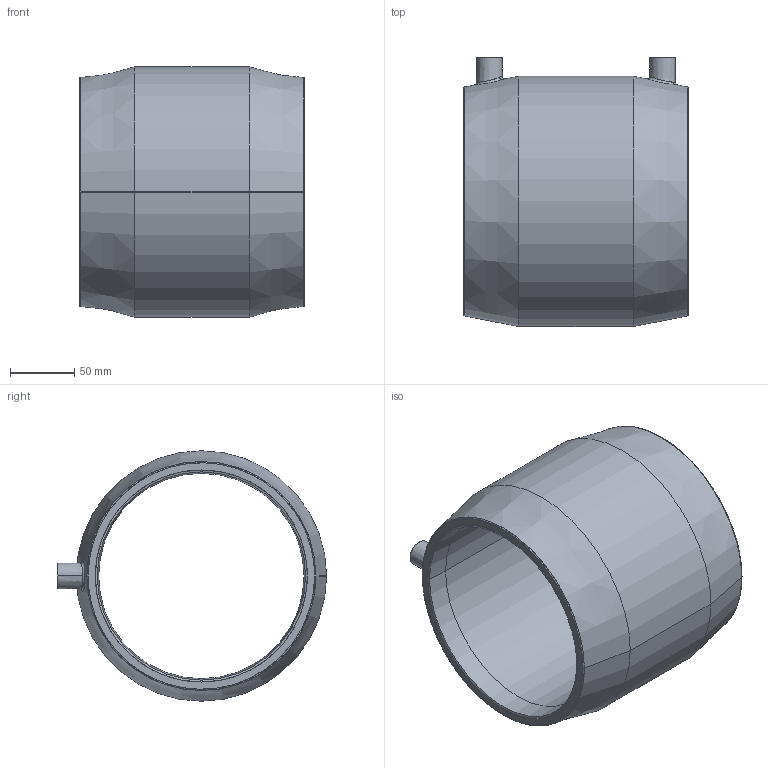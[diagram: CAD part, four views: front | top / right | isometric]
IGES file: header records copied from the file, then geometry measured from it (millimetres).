
Start section: SolidWorks IGES file using analytic representation for surfaces
Global section: file name: G:\Group\Marketing\Public\CAD Offering - Website\1. coupler\CBKHA160.IGS; native system: SolidWorks 2017; preprocessor: SolidWorks 2017; author: hwegrzynska; date: 180919.152319; units: millimetre
Bounding box: 175 x 209.6 x 195 mm (x, y, z)
Surface area: 205598.1 mm2 (no closed solid volume)
Topology: 0 solids, 0 shells, 48 faces, 891 edges, 891 vertices
Faces by surface type: revolution 32, bspline 16
